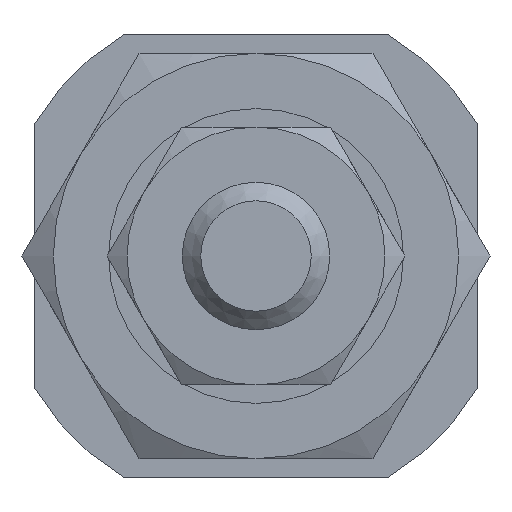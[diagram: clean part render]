
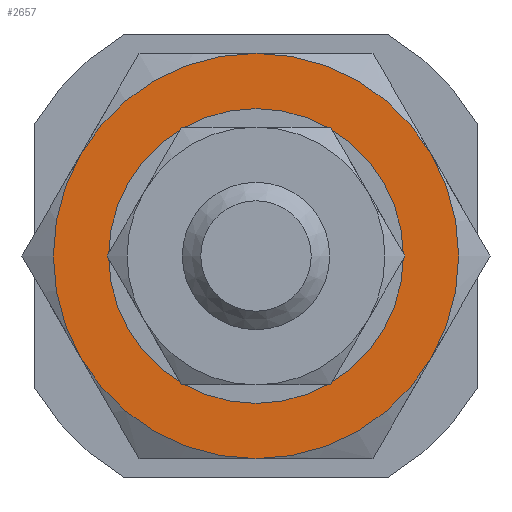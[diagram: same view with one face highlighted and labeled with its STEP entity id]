
A CAD part, left-side view. The second image highlights one B-rep face of the part: STEP entity #2657.
In plain terms, the highlighted planar face has unit normal (-1, 0, 0).
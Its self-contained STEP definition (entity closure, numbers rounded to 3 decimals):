
#889=CARTESIAN_POINT('',(-20.899,4.763,-2.75));
#890=VERTEX_POINT('',#889);
#906=CARTESIAN_POINT('',(-20.899,4.763,2.75));
#907=VERTEX_POINT('',#906);
#908=CARTESIAN_POINT('',(-20.899,0.,0.0));
#909=DIRECTION('',(-1.0,0.0,0.0));
#910=DIRECTION('',(0.0,-1.0,0.0));
#911=AXIS2_PLACEMENT_3D('',#908,#909,#910);
#912=CIRCLE('',#911,5.5);
#913=EDGE_CURVE('',#907,#890,#912,.T.);
#938=CARTESIAN_POINT('',(-20.899,0.,5.5));
#939=VERTEX_POINT('',#938);
#966=CARTESIAN_POINT('',(-20.899,0.,0.0));
#967=DIRECTION('',(-1.0,0.0,0.0));
#968=DIRECTION('',(0.0,-1.0,0.0));
#969=AXIS2_PLACEMENT_3D('',#966,#967,#968);
#970=CIRCLE('',#969,5.5);
#971=EDGE_CURVE('',#939,#907,#970,.T.);
#981=CARTESIAN_POINT('',(-20.899,0.,-5.5));
#982=VERTEX_POINT('',#981);
#998=CARTESIAN_POINT('',(-20.899,0.,0.0));
#999=DIRECTION('',(-1.0,0.0,0.0));
#1000=DIRECTION('',(0.0,-1.0,0.0));
#1001=AXIS2_PLACEMENT_3D('',#998,#999,#1000);
#1002=CIRCLE('',#1001,5.5);
#1003=EDGE_CURVE('',#890,#982,#1002,.T.);
#1028=CARTESIAN_POINT('',(-20.899,-4.763,2.75));
#1029=VERTEX_POINT('',#1028);
#1056=CARTESIAN_POINT('',(-20.899,0.,0.0));
#1057=DIRECTION('',(-1.0,0.0,0.0));
#1058=DIRECTION('',(0.0,-1.0,0.0));
#1059=AXIS2_PLACEMENT_3D('',#1056,#1057,#1058);
#1060=CIRCLE('',#1059,5.5);
#1061=EDGE_CURVE('',#1029,#939,#1060,.T.);
#1071=CARTESIAN_POINT('',(-20.899,-4.763,-2.75));
#1072=VERTEX_POINT('',#1071);
#1088=CARTESIAN_POINT('',(-20.899,0.,0.0));
#1089=DIRECTION('',(-1.0,0.0,0.0));
#1090=DIRECTION('',(0.0,-1.0,0.0));
#1091=AXIS2_PLACEMENT_3D('',#1088,#1089,#1090);
#1092=CIRCLE('',#1091,5.5);
#1093=EDGE_CURVE('',#982,#1072,#1092,.T.);
#1131=CARTESIAN_POINT('',(-20.899,0.,0.0));
#1132=DIRECTION('',(-1.0,0.0,0.0));
#1133=DIRECTION('',(0.0,-1.0,0.0));
#1134=AXIS2_PLACEMENT_3D('',#1131,#1132,#1133);
#1135=CIRCLE('',#1134,5.5);
#1136=EDGE_CURVE('',#1072,#1029,#1135,.T.);
#2633=CARTESIAN_POINT('',(-20.899,5.75,0.0));
#2634=DIRECTION('',(-1.0,0.0,0.0));
#2635=DIRECTION('',(0.0,0.0,1.0));
#2636=AXIS2_PLACEMENT_3D('',#2633,#2634,#2635);
#2637=PLANE('',#2636);
#2638=ORIENTED_EDGE('',*,*,#913,.T.);
#2639=ORIENTED_EDGE('',*,*,#1003,.T.);
#2640=ORIENTED_EDGE('',*,*,#1093,.T.);
#2641=ORIENTED_EDGE('',*,*,#1136,.T.);
#2642=ORIENTED_EDGE('',*,*,#1061,.T.);
#2643=ORIENTED_EDGE('',*,*,#971,.T.);
#2644=EDGE_LOOP('',(#2638,#2639,#2640,#2641,#2642,#2643));
#2645=FACE_OUTER_BOUND('',#2644,.T.);
#2646=CARTESIAN_POINT('',(-20.899,4.,0.0));
#2647=VERTEX_POINT('',#2646);
#2648=CARTESIAN_POINT('',(-20.899,0.,0.0));
#2649=DIRECTION('',(-1.0,0.0,0.0));
#2650=DIRECTION('',(0.0,1.0,0.0));
#2651=AXIS2_PLACEMENT_3D('',#2648,#2649,#2650);
#2652=CIRCLE('',#2651,4.);
#2653=EDGE_CURVE('',#2647,#2647,#2652,.T.);
#2654=ORIENTED_EDGE('',*,*,#2653,.F.);
#2655=EDGE_LOOP('',(#2654));
#2656=FACE_BOUND('',#2655,.T.);
#2657=ADVANCED_FACE('',(#2645,#2656),#2637,.T.);
